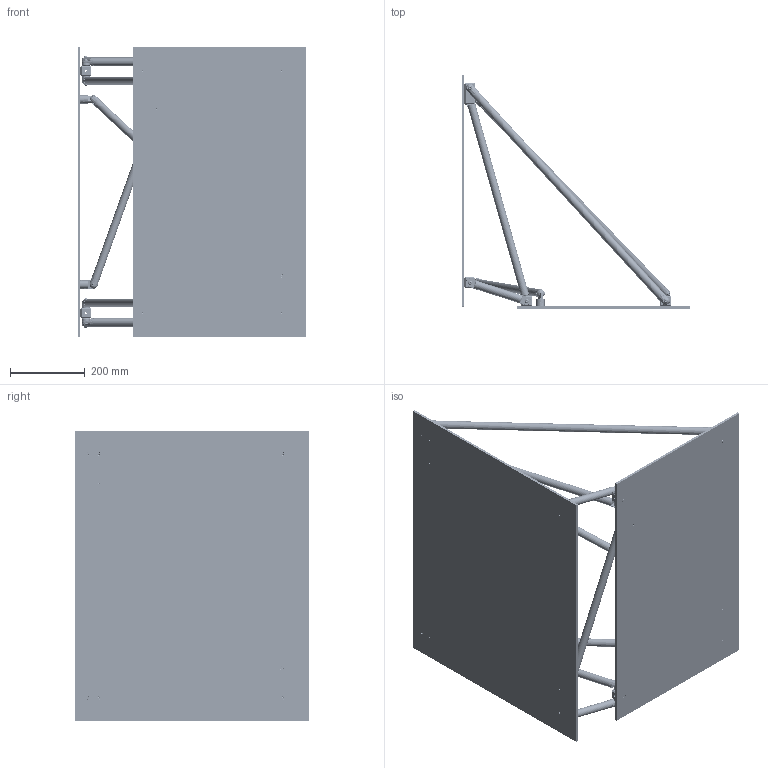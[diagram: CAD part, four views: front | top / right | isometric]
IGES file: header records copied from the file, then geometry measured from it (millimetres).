
Start section: SolidWorks IGES file using analytic representation for surfaces
Global section: file name: \\SERVER3\Design\_New Design Drive Folder List\_Design Vault\AAI\Modular Round Tube Connectors\Solidworks Models\Demonstrations\29. Offset Platform\Offset Platform Assembly.IGS; native system: SolidWorks 2013; preprocessor: SolidWorks 2013; author: tbraun; date: 131121.112208; units: inch
Bounding box: 609.6 x 625.48 x 774.7 mm (x, y, z)
Surface area: 2436515.2 mm2 (no closed solid volume)
Topology: 0 solids, 0 shells, 5838 faces, 76988 edges, 76944 vertices
Faces by surface type: revolution 4822, bspline 1016
